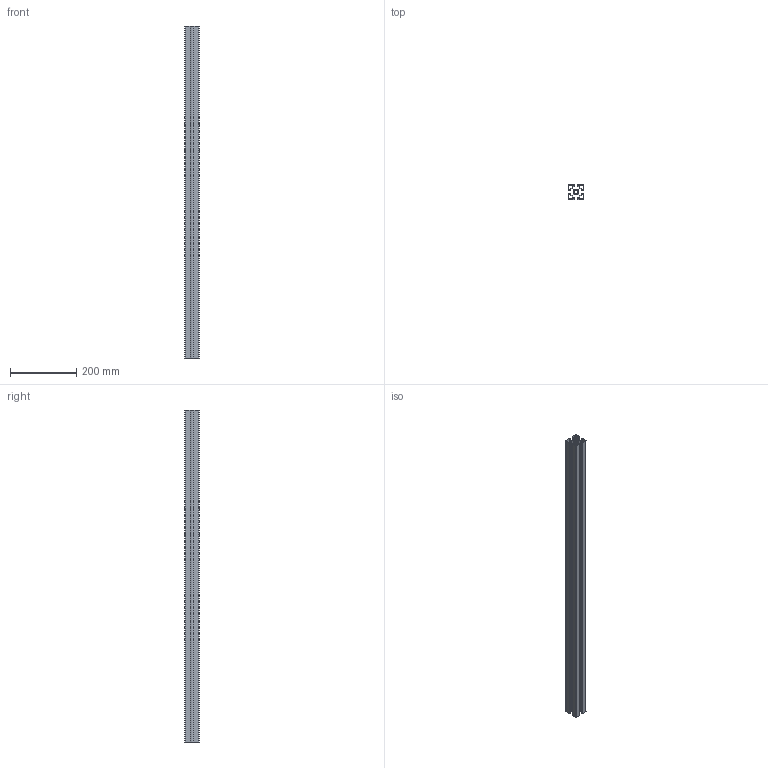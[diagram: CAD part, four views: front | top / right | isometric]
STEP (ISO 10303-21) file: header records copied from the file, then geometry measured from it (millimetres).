
FILE_DESCRIPTION (( 'STEP AP214' ), '1' );
FILE_NAME ('PERFIL 45 x 45 - 1 Kg-m.STEP', '2022-08-24T01:39:11', ( 'Marcio' ), ( '' ), 'SwSTEP 2.0', 'SolidWorks 2020', '' );
FILE_SCHEMA (( 'AUTOMOTIVE_DESIGN' ));
Length unit declared in the file: millimetre
Products named in the file (1): PERFIL 45 x 45 - 1 Kg-m
Bounding box: 45 x 45 x 1000 mm (x, y, z)
Volume: 378057.9 mm3; surface area: 671046.4 mm2
Topology: 1 solids, 1 shells, 214 faces, 636 edges, 424 vertices
Faces by surface type: plane 142, cylinder 72
Entity records: 7218 total; most frequent: CARTESIAN_POINT 1275, ORIENTED_EDGE 1272, DIRECTION 1210, EDGE_CURVE 636, LINE 492, VECTOR 492, VERTEX_POINT 424, AXIS2_PLACEMENT_3D 359
